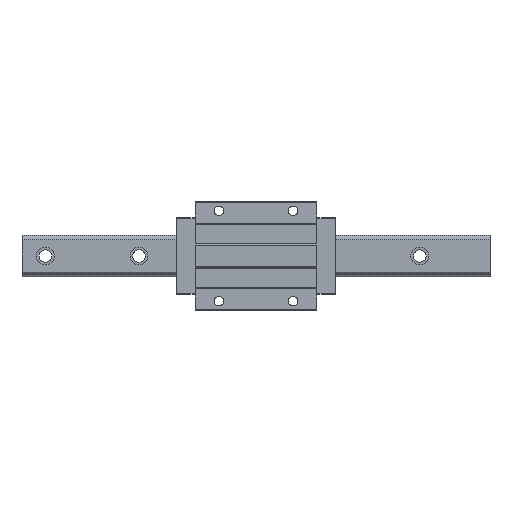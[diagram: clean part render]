
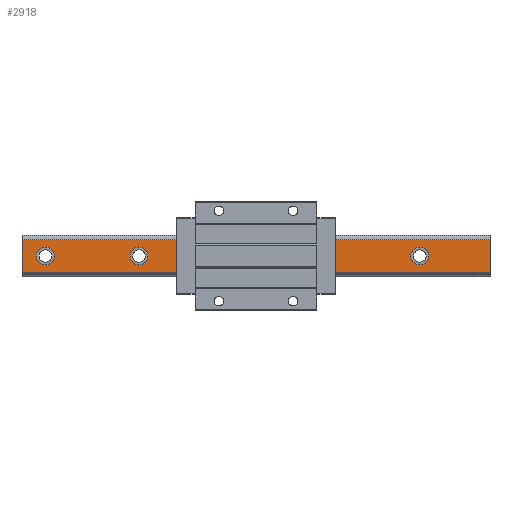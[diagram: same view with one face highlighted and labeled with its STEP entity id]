
A CAD part, top view. The second image highlights one B-rep face of the part: STEP entity #2918.
In plain terms, the highlighted planar face has unit normal (0, 0, 1).
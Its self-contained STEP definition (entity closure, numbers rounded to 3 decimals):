
#6 = AXIS2_PLACEMENT_3D ( 'NONE', #3405, #6584, #5056 ) ;
#18 = FACE_BOUND ( 'NONE', #149, .T. ) ;
#106 = AXIS2_PLACEMENT_3D ( 'NONE', #7116, #4456, #2769 ) ;
#127 = EDGE_LOOP ( 'NONE', ( #1327, #7017 ) ) ;
#149 = EDGE_LOOP ( 'NONE', ( #6338, #6351 ) ) ;
#161 = AXIS2_PLACEMENT_3D ( 'NONE', #6673, #4930, #419 ) ;
#170 = DIRECTION ( 'NONE',  ( 0., 0., 1. ) ) ;
#272 = ORIENTED_EDGE ( 'NONE', *, *, #6252, .F. ) ;
#307 = DIRECTION ( 'NONE',  ( 1., 0., 0. ) ) ;
#382 = EDGE_CURVE ( 'NONE', #6465, #4828, #1170, .T. ) ;
#387 = ORIENTED_EDGE ( 'NONE', *, *, #807, .F. ) ;
#419 = DIRECTION ( 'NONE',  ( 1., 0., 0. ) ) ;
#420 = ORIENTED_EDGE ( 'NONE', *, *, #603, .F. ) ;
#454 = CARTESIAN_POINT ( 'NONE',  ( 78.5, 0., 44. ) ) ;
#504 = EDGE_CURVE ( 'NONE', #1027, #4465, #4216, .T. ) ;
#594 = VECTOR ( 'NONE', #4497, 1000. ) ;
#603 = EDGE_CURVE ( 'NONE', #5296, #4072, #1992, .T. ) ;
#692 = CARTESIAN_POINT ( 'NONE',  ( 221.5, 0., 44. ) ) ;
#714 = DIRECTION ( 'NONE',  ( 0., 0., 1. ) ) ;
#737 = DIRECTION ( 'NONE',  ( 0., 0., 1. ) ) ;
#750 = VERTEX_POINT ( 'NONE', #1658 ) ;
#762 = EDGE_CURVE ( 'NONE', #3521, #750, #5499, .T. ) ;
#776 = CIRCLE ( 'NONE', #4057, 11.5 ) ;
#790 = CIRCLE ( 'NONE', #4983, 11.5 ) ;
#797 = CIRCLE ( 'NONE', #3716, 11.5 ) ;
#807 = EDGE_CURVE ( 'NONE', #6038, #3353, #1767, .T. ) ;
#840 = DIRECTION ( 'NONE',  ( 1., 0., 0. ) ) ;
#845 = CARTESIAN_POINT ( 'NONE',  ( -41.5, 0., 44. ) ) ;
#893 = EDGE_LOOP ( 'NONE', ( #5840, #420 ) ) ;
#950 = CARTESIAN_POINT ( 'NONE',  ( -138.5, 0., 44. ) ) ;
#1027 = VERTEX_POINT ( 'NONE', #2618 ) ;
#1084 = DIRECTION ( 'NONE',  ( 0., 0., 1. ) ) ;
#1094 = DIRECTION ( 'NONE',  ( -1., 0., 0. ) ) ;
#1129 = DIRECTION ( 'NONE',  ( 1., 0., 0. ) ) ;
#1165 = FACE_OUTER_BOUND ( 'NONE', #3224, .T. ) ;
#1167 = DIRECTION ( 'NONE',  ( 0., 0., 1. ) ) ;
#1170 = CIRCLE ( 'NONE', #5230, 11.5 ) ;
#1180 = EDGE_CURVE ( 'NONE', #4072, #5296, #776, .T. ) ;
#1217 = EDGE_CURVE ( 'NONE', #4306, #2708, #5661, .T. ) ;
#1327 = ORIENTED_EDGE ( 'NONE', *, *, #1217, .F. ) ;
#1335 = CARTESIAN_POINT ( 'NONE',  ( 300., -20.932, 44. ) ) ;
#1347 = VECTOR ( 'NONE', #6512, 1000. ) ;
#1400 = CARTESIAN_POINT ( 'NONE',  ( -18.5, 0., 44. ) ) ;
#1419 = CARTESIAN_POINT ( 'NONE',  ( -300., 20.932, 44. ) ) ;
#1656 = DIRECTION ( 'NONE',  ( 1., 0., 0. ) ) ;
#1658 = CARTESIAN_POINT ( 'NONE',  ( -300., -20.932, 44. ) ) ;
#1727 = CARTESIAN_POINT ( 'NONE',  ( 210., 0., 44. ) ) ;
#1767 = CIRCLE ( 'NONE', #3624, 11.5 ) ;
#1951 = CARTESIAN_POINT ( 'NONE',  ( 101.5, 0., 44. ) ) ;
#1992 = CIRCLE ( 'NONE', #6631, 11.5 ) ;
#1995 = CARTESIAN_POINT ( 'NONE',  ( 210., 0., 44. ) ) ;
#2036 = CIRCLE ( 'NONE', #4369, 11.5 ) ;
#2044 = CARTESIAN_POINT ( 'NONE',  ( -150., 0., 44. ) ) ;
#2080 = CARTESIAN_POINT ( 'NONE',  ( -161.5, 0., 44. ) ) ;
#2148 = DIRECTION ( 'NONE',  ( 1., 0., 0. ) ) ;
#2190 = DIRECTION ( 'NONE',  ( 0., 0., 1. ) ) ;
#2232 = DIRECTION ( 'NONE',  ( 0., 0., 1. ) ) ;
#2382 = VERTEX_POINT ( 'NONE', #2792 ) ;
#2618 = CARTESIAN_POINT ( 'NONE',  ( -258.5, 0., 44. ) ) ;
#2708 = VERTEX_POINT ( 'NONE', #2080 ) ;
#2730 = CARTESIAN_POINT ( 'NONE',  ( -30., 0., 44. ) ) ;
#2769 = DIRECTION ( 'NONE',  ( 1., 0., 0. ) ) ;
#2791 = EDGE_CURVE ( 'NONE', #2708, #4306, #797, .T. ) ;
#2792 = CARTESIAN_POINT ( 'NONE',  ( 300., 20.932, 44. ) ) ;
#2803 = CARTESIAN_POINT ( 'NONE',  ( 90., 0., 44. ) ) ;
#2918 = ADVANCED_FACE ( 'NONE', ( #3950, #6151, #3258, #18, #4915, #1165 ), #7125, .F. ) ;
#2927 = ORIENTED_EDGE ( 'NONE', *, *, #382, .F. ) ;
#3052 = DIRECTION ( 'NONE',  ( 0., -1., 0. ) ) ;
#3186 = VERTEX_POINT ( 'NONE', #3666 ) ;
#3224 = EDGE_LOOP ( 'NONE', ( #6674, #272, #6192, #5818 ) ) ;
#3258 = FACE_BOUND ( 'NONE', #893, .T. ) ;
#3353 = VERTEX_POINT ( 'NONE', #692 ) ;
#3405 = CARTESIAN_POINT ( 'NONE',  ( 300., -20.932, 44. ) ) ;
#3501 = DIRECTION ( 'NONE',  ( 1., 0., 0. ) ) ;
#3521 = VERTEX_POINT ( 'NONE', #1419 ) ;
#3624 = AXIS2_PLACEMENT_3D ( 'NONE', #1727, #1167, #5573 ) ;
#3666 = CARTESIAN_POINT ( 'NONE',  ( 300., -20.932, 44. ) ) ;
#3716 = AXIS2_PLACEMENT_3D ( 'NONE', #2044, #2232, #1129 ) ;
#3862 = EDGE_CURVE ( 'NONE', #3353, #6038, #790, .T. ) ;
#3950 = FACE_BOUND ( 'NONE', #3955, .T. ) ;
#3955 = EDGE_LOOP ( 'NONE', ( #3957, #387 ) ) ;
#3957 = ORIENTED_EDGE ( 'NONE', *, *, #3862, .F. ) ;
#4057 = AXIS2_PLACEMENT_3D ( 'NONE', #2730, #6144, #2148 ) ;
#4065 = CARTESIAN_POINT ( 'NONE',  ( 198.5, 0., 44. ) ) ;
#4072 = VERTEX_POINT ( 'NONE', #1400 ) ;
#4141 = CARTESIAN_POINT ( 'NONE',  ( -281.5, 0., 44. ) ) ;
#4188 = LINE ( 'NONE', #5988, #4608 ) ;
#4216 = CIRCLE ( 'NONE', #6399, 11.5 ) ;
#4306 = VERTEX_POINT ( 'NONE', #950 ) ;
#4314 = CARTESIAN_POINT ( 'NONE',  ( 300., 20.932, 44. ) ) ;
#4369 = AXIS2_PLACEMENT_3D ( 'NONE', #7165, #2190, #1656 ) ;
#4456 = DIRECTION ( 'NONE',  ( 0., 0., 1. ) ) ;
#4465 = VERTEX_POINT ( 'NONE', #4141 ) ;
#4497 = DIRECTION ( 'NONE',  ( 0., -1., 0. ) ) ;
#4517 = DIRECTION ( 'NONE',  ( 1., 0., 0. ) ) ;
#4582 = EDGE_CURVE ( 'NONE', #4828, #6465, #2036, .T. ) ;
#4608 = VECTOR ( 'NONE', #3052, 1000. ) ;
#4671 = CARTESIAN_POINT ( 'NONE',  ( -30., 0., 44. ) ) ;
#4703 = CARTESIAN_POINT ( 'NONE',  ( -270., 0., 44. ) ) ;
#4828 = VERTEX_POINT ( 'NONE', #1951 ) ;
#4857 = EDGE_CURVE ( 'NONE', #2382, #3186, #4188, .T. ) ;
#4915 = FACE_BOUND ( 'NONE', #127, .T. ) ;
#4930 = DIRECTION ( 'NONE',  ( 0., 0., 1. ) ) ;
#4983 = AXIS2_PLACEMENT_3D ( 'NONE', #1995, #714, #3501 ) ;
#5056 = DIRECTION ( 'NONE',  ( 0., -1., 0. ) ) ;
#5097 = ORIENTED_EDGE ( 'NONE', *, *, #4582, .F. ) ;
#5164 = EDGE_CURVE ( 'NONE', #2382, #3521, #6620, .T. ) ;
#5230 = AXIS2_PLACEMENT_3D ( 'NONE', #2803, #1084, #4517 ) ;
#5296 = VERTEX_POINT ( 'NONE', #845 ) ;
#5373 = CIRCLE ( 'NONE', #161, 11.5 ) ;
#5499 = LINE ( 'NONE', #6155, #594 ) ;
#5542 = EDGE_LOOP ( 'NONE', ( #5097, #2927 ) ) ;
#5573 = DIRECTION ( 'NONE',  ( 1., 0., 0. ) ) ;
#5661 = CIRCLE ( 'NONE', #106, 11.5 ) ;
#5818 = ORIENTED_EDGE ( 'NONE', *, *, #5164, .T. ) ;
#5840 = ORIENTED_EDGE ( 'NONE', *, *, #1180, .F. ) ;
#5988 = CARTESIAN_POINT ( 'NONE',  ( 300., -20.932, 44. ) ) ;
#6038 = VERTEX_POINT ( 'NONE', #4065 ) ;
#6081 = VECTOR ( 'NONE', #1094, 1000. ) ;
#6144 = DIRECTION ( 'NONE',  ( 0., 0., 1. ) ) ;
#6151 = FACE_BOUND ( 'NONE', #5542, .T. ) ;
#6155 = CARTESIAN_POINT ( 'NONE',  ( -300., -20.932, 44. ) ) ;
#6192 = ORIENTED_EDGE ( 'NONE', *, *, #4857, .F. ) ;
#6252 = EDGE_CURVE ( 'NONE', #3186, #750, #6847, .T. ) ;
#6338 = ORIENTED_EDGE ( 'NONE', *, *, #504, .F. ) ;
#6351 = ORIENTED_EDGE ( 'NONE', *, *, #6557, .F. ) ;
#6399 = AXIS2_PLACEMENT_3D ( 'NONE', #4703, #170, #840 ) ;
#6465 = VERTEX_POINT ( 'NONE', #454 ) ;
#6512 = DIRECTION ( 'NONE',  ( -1., 0., 0. ) ) ;
#6557 = EDGE_CURVE ( 'NONE', #4465, #1027, #5373, .T. ) ;
#6584 = DIRECTION ( 'NONE',  ( 0., 0., -1. ) ) ;
#6620 = LINE ( 'NONE', #4314, #1347 ) ;
#6631 = AXIS2_PLACEMENT_3D ( 'NONE', #4671, #737, #307 ) ;
#6673 = CARTESIAN_POINT ( 'NONE',  ( -270., 0., 44. ) ) ;
#6674 = ORIENTED_EDGE ( 'NONE', *, *, #762, .T. ) ;
#6847 = LINE ( 'NONE', #1335, #6081 ) ;
#7017 = ORIENTED_EDGE ( 'NONE', *, *, #2791, .F. ) ;
#7116 = CARTESIAN_POINT ( 'NONE',  ( -150., 0., 44. ) ) ;
#7125 = PLANE ( 'NONE',  #6 ) ;
#7165 = CARTESIAN_POINT ( 'NONE',  ( 90., 0., 44. ) ) ;
